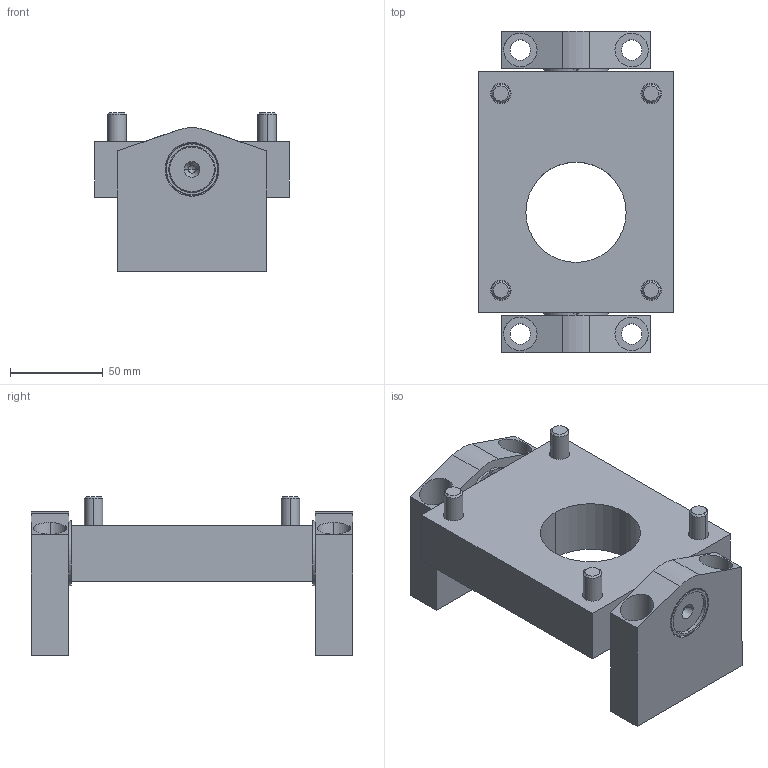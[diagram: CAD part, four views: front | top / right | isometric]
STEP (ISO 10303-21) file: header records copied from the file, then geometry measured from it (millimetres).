
FILE_DESCRIPTION (( 'STEP AP203' ), '1' );
FILE_NAME ('MJ3-KP(Z1).STEP', '2024-01-16T09:23:22', ( '' ), ( '' ), 'SwSTEP 2.0', 'SolidWorks 2022', '' );
FILE_SCHEMA (( 'CONFIG_CONTROL_DESIGN' ));
Length unit declared in the file: millimetre
Products named in the file (1): MJ3-KP(Z1)
Bounding box: 105 x 173 x 85.6 mm (x, y, z)
Volume: 529601.1 mm3; surface area: 113175.4 mm2
Topology: 9 solids, 9 shells, 220 faces, 530 edges, 336 vertices
Faces by surface type: plane 80, cylinder 76, cone 40, torus 24
Entity records: 6561 total; most frequent: CARTESIAN_POINT 1289, DIRECTION 1152, ORIENTED_EDGE 1036, EDGE_CURVE 518, AXIS2_PLACEMENT_3D 461, VERTEX_POINT 336, EDGE_LOOP 262, CIRCLE 240
